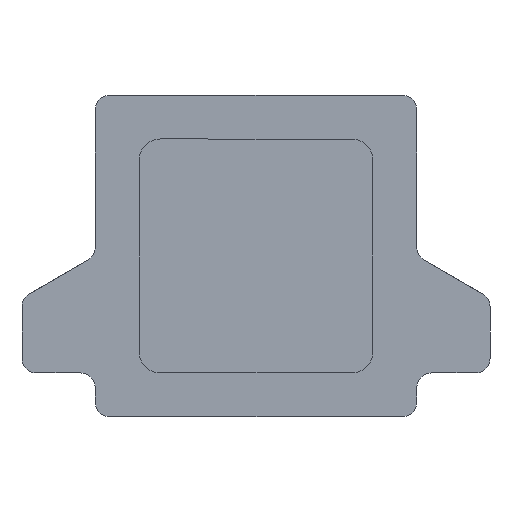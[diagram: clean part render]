
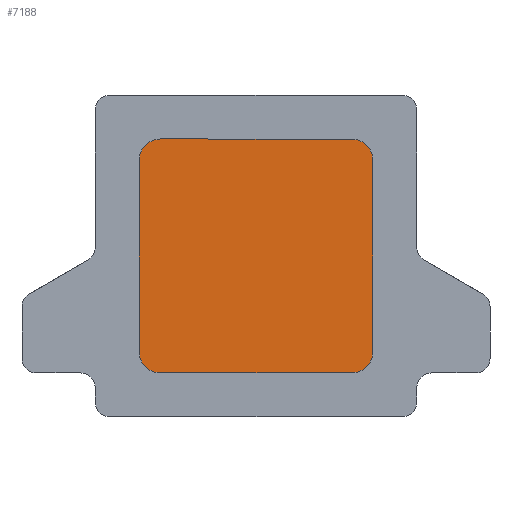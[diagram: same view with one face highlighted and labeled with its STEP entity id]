
A CAD part, front view. The second image highlights one B-rep face of the part: STEP entity #7188.
In plain terms, the highlighted planar face has unit normal (0, -1, 0).
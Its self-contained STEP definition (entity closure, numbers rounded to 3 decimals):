
#62 = DIRECTION ( 'NONE',  ( 0., -1., 0. ) ) ;
#241 = CARTESIAN_POINT ( 'NONE',  ( -80., -7., -65. ) ) ;
#295 = CARTESIAN_POINT ( 'NONE',  ( 65., -7., -80. ) ) ;
#364 = CIRCLE ( 'NONE', #801, 15. ) ;
#602 = CARTESIAN_POINT ( 'NONE',  ( -80., -7., 65. ) ) ;
#607 = VECTOR ( 'NONE', #5364, 1000. ) ;
#615 = EDGE_CURVE ( 'NONE', #5816, #8172, #364, .T. ) ;
#623 = CARTESIAN_POINT ( 'NONE',  ( -65., -7., 80. ) ) ;
#641 = CARTESIAN_POINT ( 'NONE',  ( 65., -7., 65. ) ) ;
#661 = AXIS2_PLACEMENT_3D ( 'NONE', #7825, #1451, #4270 ) ;
#706 = CARTESIAN_POINT ( 'NONE',  ( 65., -7., -65. ) ) ;
#801 = AXIS2_PLACEMENT_3D ( 'NONE', #3612, #1558, #3654 ) ;
#1171 = ORIENTED_EDGE ( 'NONE', *, *, #4058, .T. ) ;
#1185 = CARTESIAN_POINT ( 'NONE',  ( 65., -7., 80. ) ) ;
#1237 = CARTESIAN_POINT ( 'NONE',  ( 80., -7., -65. ) ) ;
#1446 = DIRECTION ( 'NONE',  ( 1., 0., 0. ) ) ;
#1451 = DIRECTION ( 'NONE',  ( 0., -1., 0. ) ) ;
#1558 = DIRECTION ( 'NONE',  ( 0., -1., 0. ) ) ;
#1575 = CARTESIAN_POINT ( 'NONE',  ( -65., -7., -80. ) ) ;
#1827 = CIRCLE ( 'NONE', #661, 15. ) ;
#1849 = CARTESIAN_POINT ( 'NONE',  ( -65., -7., -65. ) ) ;
#2308 = CIRCLE ( 'NONE', #5401, 15. ) ;
#2344 = ORIENTED_EDGE ( 'NONE', *, *, #4072, .T. ) ;
#2544 = LINE ( 'NONE', #4764, #607 ) ;
#2597 = LINE ( 'NONE', #5413, #6822 ) ;
#2666 = EDGE_CURVE ( 'NONE', #7380, #3543, #1827, .T. ) ;
#2798 = VERTEX_POINT ( 'NONE', #295 ) ;
#2896 = DIRECTION ( 'NONE',  ( -1., 0., 0. ) ) ;
#3543 = VERTEX_POINT ( 'NONE', #1185 ) ;
#3612 = CARTESIAN_POINT ( 'NONE',  ( -65., -7., 65. ) ) ;
#3625 = VERTEX_POINT ( 'NONE', #1237 ) ;
#3654 = DIRECTION ( 'NONE',  ( 1., 0., 0. ) ) ;
#4058 = EDGE_CURVE ( 'NONE', #7996, #2798, #4645, .T. ) ;
#4072 = EDGE_CURVE ( 'NONE', #3543, #5816, #8165, .T. ) ;
#4115 = ORIENTED_EDGE ( 'NONE', *, *, #9040, .T. ) ;
#4150 = FACE_OUTER_BOUND ( 'NONE', #5769, .T. ) ;
#4185 = CIRCLE ( 'NONE', #7871, 15. ) ;
#4270 = DIRECTION ( 'NONE',  ( -1., 0., 0. ) ) ;
#4559 = CARTESIAN_POINT ( 'NONE',  ( -65., -7., 80. ) ) ;
#4645 = LINE ( 'NONE', #8908, #8073 ) ;
#4667 = VECTOR ( 'NONE', #7464, 1000. ) ;
#4669 = DIRECTION ( 'NONE',  ( 1., 0., 0. ) ) ;
#4671 = EDGE_CURVE ( 'NONE', #8172, #8052, #2597, .T. ) ;
#4764 = CARTESIAN_POINT ( 'NONE',  ( 80., -7., 65. ) ) ;
#4841 = DIRECTION ( 'NONE',  ( 0., 1., 0. ) ) ;
#5056 = EDGE_CURVE ( 'NONE', #3625, #7380, #2544, .T. ) ;
#5364 = DIRECTION ( 'NONE',  ( 0., 0., 1. ) ) ;
#5401 = AXIS2_PLACEMENT_3D ( 'NONE', #1849, #6201, #4669 ) ;
#5413 = CARTESIAN_POINT ( 'NONE',  ( -80., -7., 65. ) ) ;
#5769 = EDGE_LOOP ( 'NONE', ( #8252, #2344, #6967, #8303, #6568, #1171, #4115, #7127 ) ) ;
#5816 = VERTEX_POINT ( 'NONE', #623 ) ;
#6201 = DIRECTION ( 'NONE',  ( 0., -1., 0. ) ) ;
#6262 = EDGE_CURVE ( 'NONE', #8052, #7996, #2308, .T. ) ;
#6568 = ORIENTED_EDGE ( 'NONE', *, *, #6262, .T. ) ;
#6822 = VECTOR ( 'NONE', #8238, 1000. ) ;
#6967 = ORIENTED_EDGE ( 'NONE', *, *, #615, .T. ) ;
#6976 = PLANE ( 'NONE',  #7041 ) ;
#7041 = AXIS2_PLACEMENT_3D ( 'NONE', #641, #4841, #2896 ) ;
#7127 = ORIENTED_EDGE ( 'NONE', *, *, #5056, .T. ) ;
#7188 = ADVANCED_FACE ( 'NONE', ( #4150 ), #6976, .F. ) ;
#7380 = VERTEX_POINT ( 'NONE', #7885 ) ;
#7464 = DIRECTION ( 'NONE',  ( -1., 0., 0. ) ) ;
#7825 = CARTESIAN_POINT ( 'NONE',  ( 65., -7., 65. ) ) ;
#7871 = AXIS2_PLACEMENT_3D ( 'NONE', #706, #62, #1446 ) ;
#7885 = CARTESIAN_POINT ( 'NONE',  ( 80., -7., 65. ) ) ;
#7996 = VERTEX_POINT ( 'NONE', #1575 ) ;
#8052 = VERTEX_POINT ( 'NONE', #241 ) ;
#8072 = DIRECTION ( 'NONE',  ( 1., 0., 0. ) ) ;
#8073 = VECTOR ( 'NONE', #8072, 1000. ) ;
#8165 = LINE ( 'NONE', #4559, #4667 ) ;
#8172 = VERTEX_POINT ( 'NONE', #602 ) ;
#8238 = DIRECTION ( 'NONE',  ( 0., 0., -1. ) ) ;
#8252 = ORIENTED_EDGE ( 'NONE', *, *, #2666, .T. ) ;
#8303 = ORIENTED_EDGE ( 'NONE', *, *, #4671, .T. ) ;
#8908 = CARTESIAN_POINT ( 'NONE',  ( -65., -7., -80. ) ) ;
#9040 = EDGE_CURVE ( 'NONE', #2798, #3625, #4185, .T. ) ;
